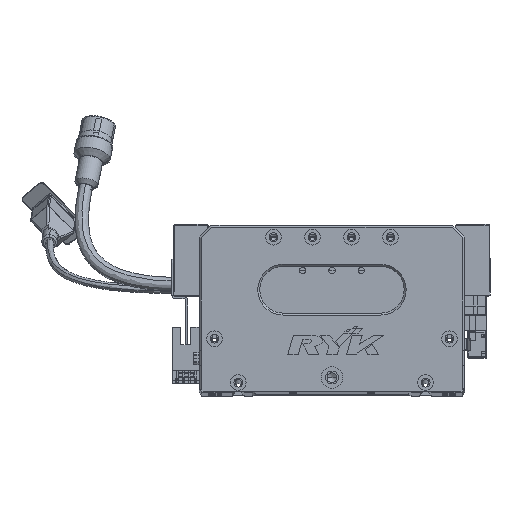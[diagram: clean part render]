
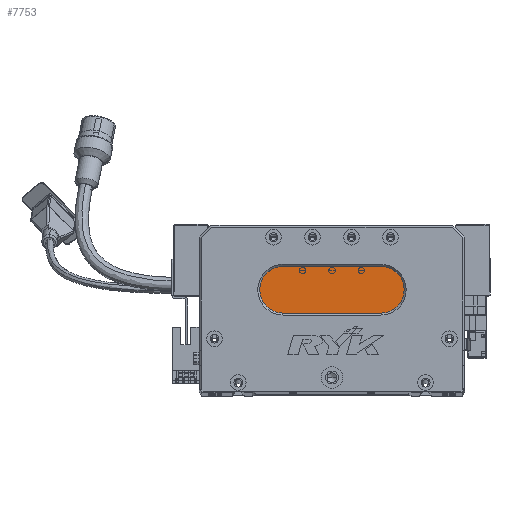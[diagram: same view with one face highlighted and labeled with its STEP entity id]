
A CAD part, top view. The second image highlights one B-rep face of the part: STEP entity #7753.
In plain terms, the highlighted planar face has unit normal (0, 0, 1) as drawn and (0, 0, -1) by its records, which use the part's own axes.
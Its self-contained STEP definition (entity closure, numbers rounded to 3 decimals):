
#367 = ORIENTED_EDGE ( 'NONE', *, *, #46292, .T. ) ;
#1762 = VERTEX_POINT ( 'NONE', #65410 ) ;
#3778 = VECTOR ( 'NONE', #31703, 1000. ) ;
#5867 = DIRECTION ( 'NONE',  ( -1., 0., 0. ) ) ;
#6288 = DIRECTION ( 'NONE',  ( 0., 0., -1. ) ) ;
#7164 = PLANE ( 'NONE',  #47481 ) ;
#7753 = ADVANCED_FACE ( 'NONE', ( #11455 ), #7164, .T. ) ;
#8992 = CARTESIAN_POINT ( 'NONE',  ( 93., 40., 13. ) ) ;
#9908 = CARTESIAN_POINT ( 'NONE',  ( 43., 64., 13. ) ) ;
#11211 = LINE ( 'NONE', #50886, #3778 ) ;
#11455 = FACE_OUTER_BOUND ( 'NONE', #52541, .T. ) ;
#15939 = CIRCLE ( 'NONE', #55699, 12. ) ;
#16264 = VERTEX_POINT ( 'NONE', #83160 ) ;
#17937 = EDGE_CURVE ( 'NONE', #25801, #70154, #68044, .T. ) ;
#24389 = DIRECTION ( 'NONE',  ( -1., 0., 0. ) ) ;
#25801 = VERTEX_POINT ( 'NONE', #27350 ) ;
#26286 = LINE ( 'NONE', #8992, #57931 ) ;
#27308 = DIRECTION ( 'NONE',  ( -1., 0., 0. ) ) ;
#27350 = CARTESIAN_POINT ( 'NONE',  ( 31., 52., 13. ) ) ;
#28559 = VERTEX_POINT ( 'NONE', #85762 ) ;
#28580 = ORIENTED_EDGE ( 'NONE', *, *, #17937, .T. ) ;
#29152 = ORIENTED_EDGE ( 'NONE', *, *, #66122, .T. ) ;
#31703 = DIRECTION ( 'NONE',  ( 1., 0., 0. ) ) ;
#33433 = DIRECTION ( 'NONE',  ( -1., 0., 0. ) ) ;
#33517 = ORIENTED_EDGE ( 'NONE', *, *, #37788, .T. ) ;
#34252 = AXIS2_PLACEMENT_3D ( 'NONE', #53337, #59575, #5867 ) ;
#34651 = DIRECTION ( 'NONE',  ( 0., 0., -1. ) ) ;
#37118 = CARTESIAN_POINT ( 'NONE',  ( 43., 52., 13. ) ) ;
#37788 = EDGE_CURVE ( 'NONE', #28559, #16264, #26286, .T. ) ;
#43111 = CIRCLE ( 'NONE', #34252, 12. ) ;
#46292 = EDGE_CURVE ( 'NONE', #70154, #1762, #11211, .T. ) ;
#46731 = CARTESIAN_POINT ( 'NONE',  ( 93., 52., 13. ) ) ;
#47481 = AXIS2_PLACEMENT_3D ( 'NONE', #46731, #6288, #33433 ) ;
#50886 = CARTESIAN_POINT ( 'NONE',  ( 93., 64., 13. ) ) ;
#52541 = EDGE_LOOP ( 'NONE', ( #29152, #33517, #85068, #28580, #367 ) ) ;
#53337 = CARTESIAN_POINT ( 'NONE',  ( 93., 52., 13. ) ) ;
#55699 = AXIS2_PLACEMENT_3D ( 'NONE', #37118, #84245, #84528 ) ;
#57931 = VECTOR ( 'NONE', #24389, 1000. ) ;
#59575 = DIRECTION ( 'NONE',  ( 0., 0., -1. ) ) ;
#64843 = EDGE_CURVE ( 'NONE', #16264, #25801, #15939, .T. ) ;
#65410 = CARTESIAN_POINT ( 'NONE',  ( 93., 64., 13. ) ) ;
#66122 = EDGE_CURVE ( 'NONE', #1762, #28559, #43111, .T. ) ;
#66783 = AXIS2_PLACEMENT_3D ( 'NONE', #74776, #34651, #27308 ) ;
#68044 = CIRCLE ( 'NONE', #66783, 12. ) ;
#70154 = VERTEX_POINT ( 'NONE', #9908 ) ;
#74776 = CARTESIAN_POINT ( 'NONE',  ( 43., 52., 13. ) ) ;
#83160 = CARTESIAN_POINT ( 'NONE',  ( 43., 40., 13. ) ) ;
#84245 = DIRECTION ( 'NONE',  ( 0., 0., -1. ) ) ;
#84528 = DIRECTION ( 'NONE',  ( -1., 0., 0. ) ) ;
#85068 = ORIENTED_EDGE ( 'NONE', *, *, #64843, .T. ) ;
#85762 = CARTESIAN_POINT ( 'NONE',  ( 93., 40., 13. ) ) ;
